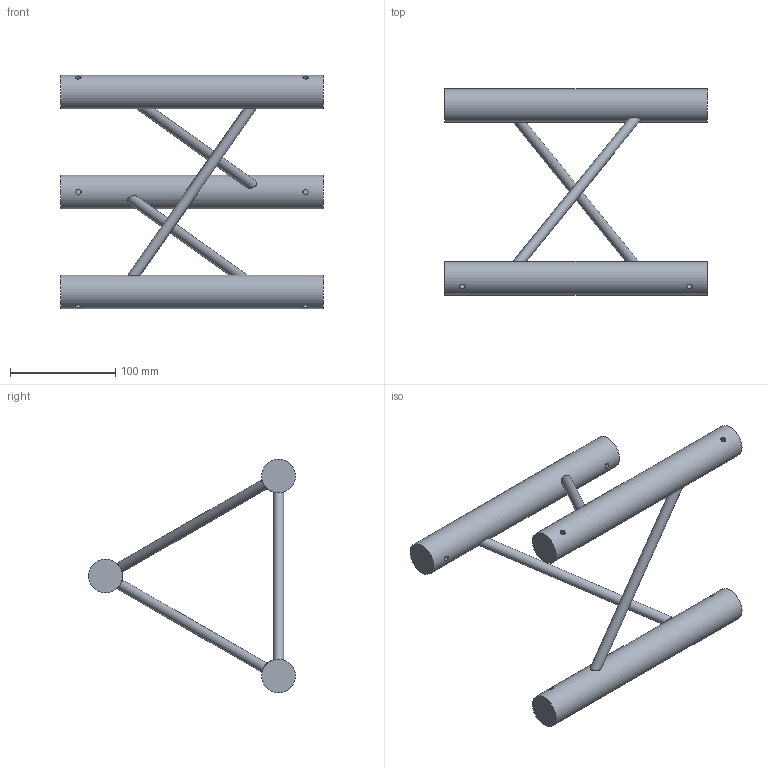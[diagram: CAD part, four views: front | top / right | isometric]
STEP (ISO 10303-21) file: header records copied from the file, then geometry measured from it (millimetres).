
FILE_DESCRIPTION(/* description */ (''),/* implementation_level */ '2;1');
FILE_NAME(/* name */ 'M:\Symbolen_NIEUW\STP\20-er truss\E20D\E20D-L025_111020002.stp',/* time_stamp */ '2017-11-16T13:17:46+01:00',/* author */ ('Kees'),/* organization */ (''),/* preprocessor_version */ 'ST-DEVELOPER v16.13',/* originating_system */ 'Autodesk Inventor 2018',/* authorisation */ '');
FILE_SCHEMA (('AUTOMOTIVE_DESIGN { 1 0 10303 214 3 1 1 }'));
Length unit declared in the file: millimetre
Products named in the file (1): 160008281
Bounding box: 250 x 196.54 x 222 mm (x, y, z)
Volume: 644878.7 mm3; surface area: 101976.8 mm2
Topology: 6 solids, 6 shells, 42 faces, 84 edges, 54 vertices
Faces by surface type: cylinder 24, plane 18
Full cylindrical faces by diameter (mm): 5 x6, 10 x3, 32 x3
Entity records: 1506 total; most frequent: CARTESIAN_POINT 607, ORIENTED_EDGE 156, DIRECTION 146, VERTEX_POINT 78, EDGE_CURVE 78, EDGE_LOOP 72, AXIS2_PLACEMENT_3D 61, FACE_BOUND 42
